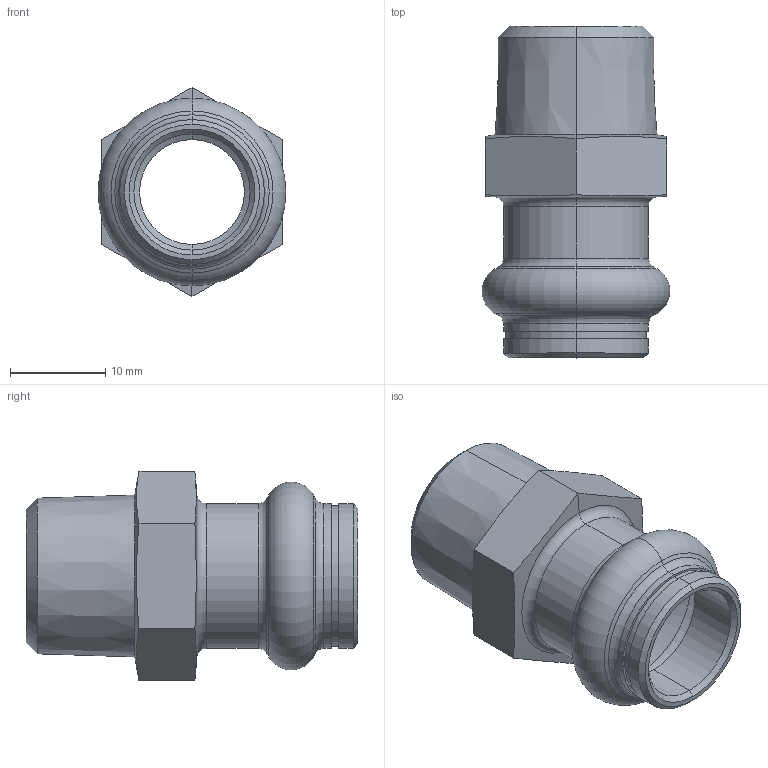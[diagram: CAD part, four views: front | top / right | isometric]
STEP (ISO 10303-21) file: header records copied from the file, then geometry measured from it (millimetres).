
FILE_DESCRIPTION (( 'STEP AP203' ), '1' );
FILE_NAME ('SP4243G Ø12 3-8.STEP', '2017-04-26T06:56:01', ( '' ), ( '' ), 'SwSTEP 2.0', 'SolidWorks 2016', '' );
FILE_SCHEMA (( 'CONFIG_CONTROL_DESIGN' ));
Length unit declared in the file: millimetre
Products named in the file (1): SP4243G Ø12 3-8
Bounding box: 19.7 x 34.8 x 21.94 mm (x, y, z)
Volume: 3734.7 mm3; surface area: 3793.3 mm2
Topology: 1 solids, 1 shells, 59 faces, 122 edges, 68 vertices
Faces by surface type: cone 22, cylinder 16, plane 11, torus 10
Entity records: 1655 total; most frequent: CARTESIAN_POINT 306, DIRECTION 296, ORIENTED_EDGE 244, AXIS2_PLACEMENT_3D 126, EDGE_CURVE 122, VERTEX_POINT 68, CIRCLE 66, EDGE_LOOP 64
